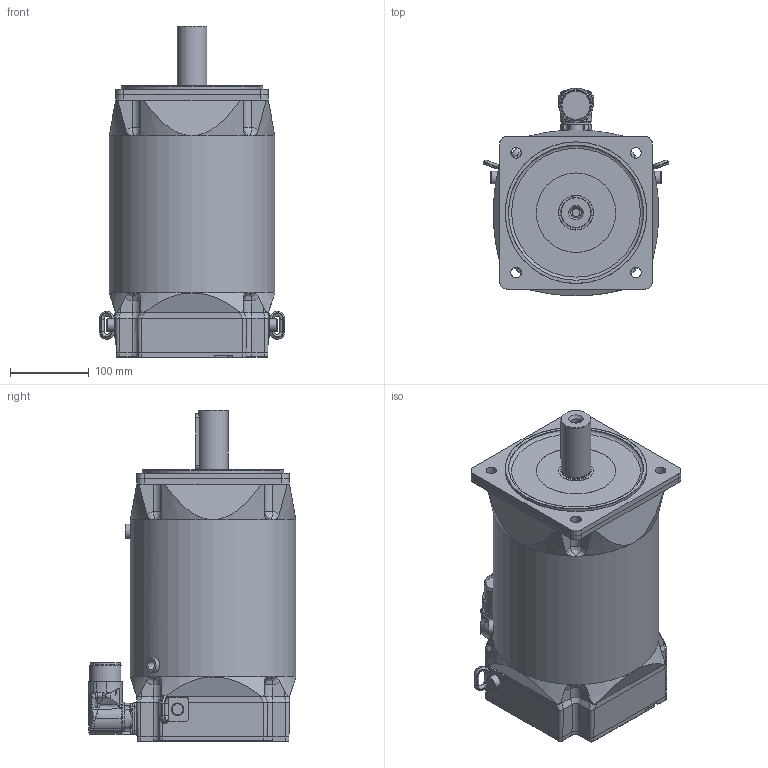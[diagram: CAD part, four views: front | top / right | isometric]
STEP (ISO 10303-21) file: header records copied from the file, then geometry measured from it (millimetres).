
FILE_DESCRIPTION(/* description */ (''),/* implementation_level */ '2;1');
FILE_NAME(/* name */ 'AM8372-xQ_T11.stp',/* time_stamp */ '2024-11-12T12:00:39+01:00',/* author */ ('MartinMue'),/* organization */ ('FERTIG Motors'),/* preprocessor_version */ 'ST-DEVELOPER v20',/* originating_system */ 'Autodesk Inventor 2024',/* authorisation */ '');
FILE_SCHEMA (('AUTOMOTIVE_DESIGN { 1 0 10303 214 3 1 1 }'));
Length unit declared in the file: millimetre
Products named in the file (6): 5000000382; 5000000382_1; DIN 6885-A10x8x70; Intercontec-H86E502NN 00000100000_VM; Intercontec-H86E502NN 00000100000_VM_1; Zurröse
Assembly tree (6 placements, depth 2):
  5000000382
    5000000382_1
    DIN 6885-A10x8x70
    Intercontec-H86E502NN 00000100000_VM
    Intercontec-H86E502NN 00000100000_VM_1
    Zurröse  x2
Bounding box: 235.51 x 263.57 x 421.51 mm (x, y, z)
Volume: 12073022.5 mm3; surface area: 363024.9 mm2
Topology: 8 solids, 12 shells, 658 faces, 1718 edges, 1097 vertices
Faces by surface type: plane 306, cylinder 118, cone 104, bspline 86, torus 38, sphere 6
Full cylindrical faces by diameter (mm): 8 x2, 10.106 x1, 11.445 x2, 13 x1, 16 x2, 18 x2, 22 x1, 25.5 x1, 37.4 x1, 38 x1, 40 x1, 180 x1, 210 x1
Entity records: 25037 total; most frequent: CARTESIAN_POINT 9249, ORIENTED_EDGE 3252, DIRECTION 2932, EDGE_CURVE 1626, AXIS2_PLACEMENT_3D 1065, VERTEX_POINT 1049, LINE 802, VECTOR 802
